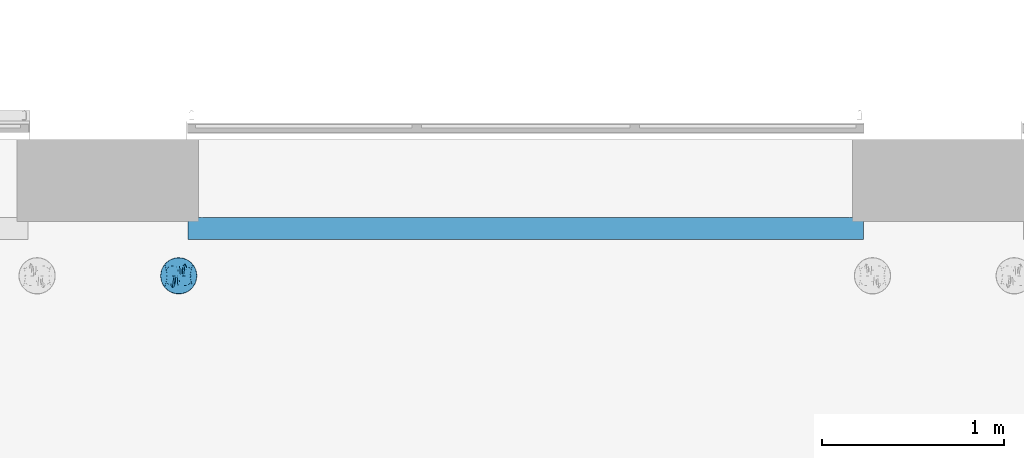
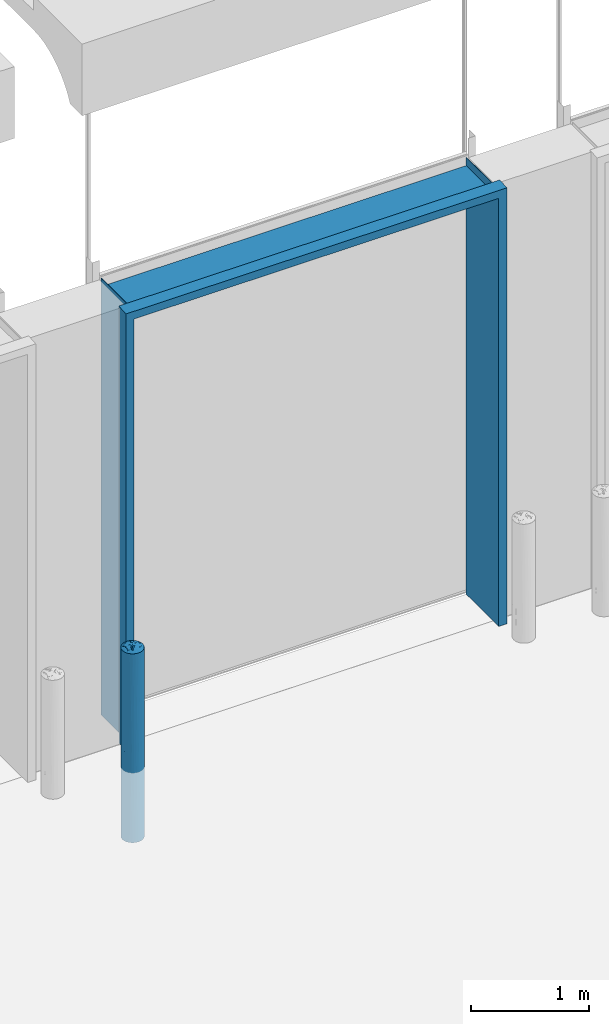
# One storey, part 42 of 77: 2 discrete accessories.
"""IFC2X3 building model written with IfcOpenShell, lengths in millimetres."""

from ifc_helpers import new_model, entity, si_unit, converted_unit, derived_unit, direction, frame, origin, place, context, subcontext, project, spatial, faceted_brep, source, transform, mapped, material, type_object, type_shapes, element, save


model = new_model("IFC2X3")

# Units and contexts
model_context = context("Model", 3, precision=0.01, world=origin(), true_north=direction((6.12303176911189e-17, 1.0)))
body_context = subcontext(model_context, "Body", "Model", "MODEL_VIEW")
ifc_project = project(units=[si_unit("LENGTHUNIT", "METRE", prefix="MILLI"), si_unit("AREAUNIT", "SQUARE_METRE"), si_unit("VOLUMEUNIT", "CUBIC_METRE"), converted_unit("PLANEANGLEUNIT", "DEGREE", entity("IfcRatioMeasure", 0.0174532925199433), si_unit("PLANEANGLEUNIT", "RADIAN"), dimensions=[0, 0, 0, 0, 0, 0, 0]), si_unit("MASSUNIT", "GRAM", prefix="KILO"), derived_unit("MASSDENSITYUNIT", [(si_unit("MASSUNIT", "GRAM", prefix="KILO"), 1), (si_unit("LENGTHUNIT", "METRE"), -3)]), si_unit("TIMEUNIT", "SECOND"), si_unit("FREQUENCYUNIT", "HERTZ"), si_unit("THERMODYNAMICTEMPERATUREUNIT", "DEGREE_CELSIUS"), derived_unit("THERMALTRANSMITTANCEUNIT", [(si_unit("MASSUNIT", "GRAM", prefix="KILO"), 1), (si_unit("THERMODYNAMICTEMPERATUREUNIT", "KELVIN"), -1), (si_unit("TIMEUNIT", "SECOND"), -3)]), derived_unit("VOLUMETRICFLOWRATEUNIT", [(si_unit("LENGTHUNIT", "METRE"), 3), (si_unit("TIMEUNIT", "SECOND"), -1)]), si_unit("ELECTRICCURRENTUNIT", "AMPERE"), si_unit("ELECTRICVOLTAGEUNIT", "VOLT"), si_unit("POWERUNIT", "WATT"), si_unit("FORCEUNIT", "NEWTON", prefix="KILO"), si_unit("ILLUMINANCEUNIT", "LUX"), si_unit("LUMINOUSFLUXUNIT", "LUMEN"), si_unit("LUMINOUSINTENSITYUNIT", "CANDELA"), derived_unit("USERDEFINED", [(si_unit("MASSUNIT", "GRAM", prefix="KILO"), -1), (si_unit("LENGTHUNIT", "METRE"), -2), (si_unit("TIMEUNIT", "SECOND"), 3), (si_unit("LUMINOUSFLUXUNIT", "LUMEN"), 1)]), derived_unit("LINEARVELOCITYUNIT", [(si_unit("LENGTHUNIT", "METRE"), 1), (si_unit("TIMEUNIT", "SECOND"), -1)]), si_unit("PRESSUREUNIT", "PASCAL"), derived_unit("USERDEFINED", [(si_unit("LENGTHUNIT", "METRE"), -2), (si_unit("MASSUNIT", "GRAM", prefix="KILO"), 1), (si_unit("TIMEUNIT", "SECOND"), -2)])], contexts=[model_context])

# Site, building, storey
site_placement = place(None, origin())
site = spatial("IfcSite", under=ifc_project, at=site_placement, Name="Default", CompositionType="ELEMENT")
building_placement = place(site_placement, origin())
building = spatial("IfcBuilding", under=site, at=building_placement, CompositionType="ELEMENT")
storey_placement = place(building_placement, origin())
storey = spatial("IfcBuildingStorey", under=building, at=storey_placement, Name="1. KORRUS", CompositionType="ELEMENT", Elevation=0.0)

# Discrete accessories
ifc_material = material(Name="Default New Material-must-varv")
discrete_accessory_type_1 = type_object("IfcDiscreteAccessoryType", Name="ukse-pollar", material=ifc_material)
shared_shape_1 = source(origin(), body_context, "Body", "Brep", [
    faceted_brep([(83.7498316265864, 0.0, 1211.3118064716), (91.8749158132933, 0.0, 1205.6559032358), (100.0, 0.0, 1200.0), (97.6882221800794, 13.1107435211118, 1200.0), (95.8287421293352, 23.6563789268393, 1200.0), (93.969262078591, 34.2020143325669, 1200.0), (76.9390417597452, 0.0, 1216.05282423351), (63.3022221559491, 75.4406506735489, 1200.0), (62.8416939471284, 39.8030161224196, 1218.4526620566), (69.2436158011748, 37.0764107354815, 1215.9880775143), (-97.6882221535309, 13.110743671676, 1200.0), (-100.0, 0.0, 1200.0), (-91.8749158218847, 0.0, 1205.65590322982), (-83.7498316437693, 0.0, 1211.31180645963), (-76.9390417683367, 0.0, 1216.05282422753), (-93.9692620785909, 34.2020143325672, 1200.0), (-95.8287421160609, 23.6563790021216, 1200.0), (61.6281008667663, 0.0, 1224.0406107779), (76.604444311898, 64.278760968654, 1200.0), (85.2868531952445, 49.2403876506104, 1200.0), (-3.54862814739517, 32.9400963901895, 1234.4920463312), (9.03191194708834, 0.0, 1237.09268012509), (4.40844307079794, 58.3778316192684, 1226.30016518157), (54.6170308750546, 47.6944043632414, 1219.50624940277), (44.627798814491, 0.0, 1230.53414834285), (25.5588463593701, 59.4119136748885, 1223.53680168), (33.6824088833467, 92.5416578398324, 1200.0), (17.3648177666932, 98.4807753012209, 1200.0), (-61.6281008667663, 0.0, 1224.0406107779), (-85.2868531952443, 49.2403876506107, 1200.0), (-70.128251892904, 0.0, 1220.79384199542), (36.1276477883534, 0.0, 1233.78091712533), (43.4209832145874, 50.3665618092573, 1222.6504135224), (70.128251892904, 0.0, 1220.79384199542), (-76.6044443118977, 64.2787609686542, 1200.0), (50.0, 86.6025403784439, 1200.0), (-50.0, 86.6025403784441, 1200.0), (-54.4185160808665, 48.7244133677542, 1219.21017541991), (-43.392270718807, 54.0995868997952, 1221.20165944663), (27.095735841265, 0.0, 1234.88483812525), (35.2622305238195, 66.2009236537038, 1218.09661192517), (-62.8416940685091, 39.8030246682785, 1218.45265938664), (-63.3022221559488, 75.4406506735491, 1200.0), (18.0638238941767, 0.0, 1235.98875912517), (18.4754636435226, 34.2574490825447, 1233.0588958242), (-69.2436179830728, 37.0764202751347, 1215.98807356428), (-53.1279498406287, 0.0, 1227.28737956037), (15.0400910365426, 63.9380091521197, 1223.05106581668), (0.0, 98.4807753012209, 1200.0), (-33.6824088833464, 92.5416578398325, 1200.0), (-31.0939161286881, 53.155099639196, 1224.97270928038), (-21.496736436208, 71.3818883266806, 1218.36002279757), (-27.095735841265, 0.0, 1234.88483812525), (-36.1276477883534, 0.0, 1233.78091712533), (-13.9644320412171, 48.8776365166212, 1229.32055829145), (53.1279498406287, 0.0, 1227.28737956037), (-44.627798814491, 0.0, 1230.53414834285), (-18.0638238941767, 0.0, 1235.98875912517), (-9.03191194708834, 0.0, 1237.09268012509), (-9.80597558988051, 78.5292492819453, 1215.62108797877), (-17.3648177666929, 98.480775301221, 1200.0), (0.0, 0.0, 1238.19660112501), (-97.6882221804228, -13.1107435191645, 1200.0), (-95.8287421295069, -23.6563789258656, 1200.0), (-93.9692620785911, -34.2020143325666, 1200.0), (-63.3022221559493, -75.4406506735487, 1200.0), (-62.8416938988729, -39.8030161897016, 1218.45266205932), (-69.2436157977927, -37.076410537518, 1215.98807757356), (97.6882221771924, -13.110743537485, 1200.0), (93.9692620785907, -34.2020143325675, 1200.0), (95.8287421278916, -23.6563789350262, 1200.0), (-76.6044443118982, -64.2787609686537, 1200.0), (-85.2868531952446, -49.2403876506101, 1200.0), (3.54862829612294, -32.9400954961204, 1234.4920465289), (-4.40844201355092, -58.3778322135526, 1226.30016496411), (-54.6170308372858, -47.6944042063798, 1219.50624947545), (-25.5588462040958, -59.4119134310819, 1223.53680181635), (-33.682408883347, -92.5416578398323, 1200.0), (-17.3648177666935, -98.4807753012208, 1200.0), (-43.4209830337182, -50.3665619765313, 1222.65041351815), (-50.0, -86.6025403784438, 1200.0), (62.8416939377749, -39.803016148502, 1218.45266205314), (54.4185175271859, -48.7244091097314, 1219.21017640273), (63.3022221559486, -75.4406506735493, 1200.0), (85.2868531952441, -49.240387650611, 1200.0), (76.6044443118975, -64.2787609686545, 1200.0), (50.0, -86.6025403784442, 1200.0), (43.3922717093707, -54.0995849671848, 1221.20165990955), (-35.2622303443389, -66.2009242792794, 1218.09661165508), (-18.475463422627, -34.2574489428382, 1233.05889588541), (69.2436157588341, -37.0764105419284, 1215.98807759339), (-15.0400904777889, -63.9380089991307, 1223.05106595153), (0.0, -98.4807753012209, 1200.0), (33.6824088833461, -92.5416578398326, 1200.0), (31.0939160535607, -53.155100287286, 1224.97270904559), (21.4967358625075, -71.3818881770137, 1218.3600229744), (13.9644325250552, -48.8776338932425, 1229.32055915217), (9.80597229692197, -78.5292495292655, 1215.62108807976), (17.3648177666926, -98.480775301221, 1200.0), (0.0, 0.0, 1200.0)], [[[0, 1, 2, 3, 4, 5, 6]], [[7, 8, 9]], [[10, 11, 12, 13, 14, 15, 16]], [[9, 17, 18]], [[17, 19, 18]], [[20, 21, 22]], [[8, 23, 24]], [[25, 26, 27]], [[28, 29, 30]], [[19, 6, 5]], [[31, 23, 32]], [[14, 30, 29]], [[6, 19, 33]], [[29, 28, 34]], [[32, 23, 35]], [[36, 37, 38]], [[39, 32, 40]], [[29, 15, 14]], [[41, 37, 42]], [[43, 44, 21]], [[33, 19, 17]], [[45, 28, 46]], [[42, 37, 36]], [[45, 46, 41]], [[25, 43, 39]], [[47, 22, 44]], [[26, 40, 35]], [[47, 27, 48]], [[49, 50, 51]], [[52, 38, 53]], [[22, 54, 20]], [[39, 31, 32]], [[25, 40, 26]], [[24, 55, 8]], [[35, 23, 7]], [[23, 31, 24]], [[9, 8, 55]], [[23, 8, 7]], [[37, 41, 56]], [[51, 50, 54]], [[38, 52, 50]], [[57, 50, 52]], [[50, 57, 54]], [[38, 49, 36]], [[54, 57, 58]], [[48, 59, 22]], [[38, 37, 53]], [[49, 38, 50]], [[56, 41, 46]], [[56, 53, 37]], [[45, 42, 34]], [[17, 9, 55]], [[7, 9, 18]], [[42, 45, 41]], [[28, 45, 34]], [[47, 44, 25]], [[25, 44, 43]], [[22, 21, 44]], [[25, 27, 47]], [[51, 59, 60]], [[47, 48, 22]], [[39, 40, 25]], [[35, 40, 32]], [[58, 20, 54]], [[20, 58, 61]], [[21, 20, 61]], [[59, 51, 54]], [[49, 51, 60]], [[22, 59, 54]], [[48, 60, 59]], [[13, 12, 11, 62, 63, 64, 14]], [[65, 66, 67]], [[68, 2, 1, 0, 6, 69, 70]], [[67, 28, 71]], [[28, 72, 71]], [[73, 58, 74]], [[66, 75, 56]], [[76, 77, 78]], [[79, 75, 80]], [[53, 75, 79]], [[81, 82, 83]], [[6, 84, 69]], [[84, 17, 85]], [[86, 82, 87]], [[17, 84, 33]], [[52, 79, 88]], [[33, 84, 6]], [[72, 14, 64]], [[57, 89, 58]], [[14, 72, 30]], [[30, 72, 28]], [[90, 17, 55]], [[83, 82, 86]], [[90, 55, 81]], [[76, 57, 52]], [[91, 74, 89]], [[77, 88, 80]], [[91, 78, 92]], [[93, 94, 95]], [[39, 87, 31]], [[74, 96, 73]], [[52, 53, 79]], [[76, 88, 77]], [[56, 46, 66]], [[80, 75, 65]], [[75, 53, 56]], [[67, 66, 46]], [[75, 66, 65]], [[82, 81, 24]], [[95, 94, 96]], [[87, 39, 94]], [[43, 94, 39]], [[94, 43, 96]], [[87, 93, 86]], [[96, 43, 21]], [[92, 97, 74]], [[87, 82, 31]], [[93, 87, 94]], [[24, 81, 55]], [[24, 31, 82]], [[90, 83, 85]], [[28, 67, 46]], [[65, 67, 71]], [[83, 90, 81]], [[17, 90, 85]], [[91, 89, 76]], [[76, 89, 57]], [[74, 58, 89]], [[76, 78, 91]], [[95, 97, 98]], [[91, 92, 74]], [[52, 88, 76]], [[80, 88, 79]], [[21, 73, 96]], [[73, 21, 61]], [[58, 73, 61]], [[97, 95, 96]], [[93, 95, 98]], [[74, 97, 96]], [[92, 98, 97]], [[99, 15, 29]], [[99, 29, 34]], [[99, 34, 42]], [[99, 42, 36]], [[99, 36, 49]], [[99, 49, 60]], [[99, 60, 48]], [[99, 16, 15]], [[99, 10, 16]], [[99, 11, 10]], [[99, 48, 27]], [[99, 27, 26]], [[99, 26, 35]], [[99, 35, 7]], [[99, 7, 18]], [[99, 18, 19]], [[99, 19, 5]], [[99, 5, 4]], [[99, 4, 3]], [[99, 3, 2]], [[99, 2, 68]], [[99, 62, 11]], [[99, 63, 62]], [[99, 64, 63]], [[99, 72, 64]], [[99, 71, 72]], [[99, 65, 71]], [[99, 80, 65]], [[99, 77, 80]], [[99, 78, 77]], [[99, 68, 70]], [[99, 70, 69]], [[99, 69, 84]], [[99, 84, 85]], [[99, 85, 83]], [[99, 83, 86]], [[99, 86, 93]], [[99, 93, 98]], [[99, 98, 92]], [[99, 92, 78]]]),
    faceted_brep([(25.8819045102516, -96.592582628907, 1200.0), (50.0, -86.6025403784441, 1200.0), (70.7106781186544, -70.7106781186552, 1200.0), (86.6025403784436, -50.0, 1200.0), (96.5925826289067, -25.8819045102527, 1200.0), (100.0, 0.0, 1200.0), (96.5925826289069, 25.8819045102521, 1200.0), (86.6025403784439, 50.0, 1200.0), (70.7106781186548, 70.7106781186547, 1200.0), (50.0, 86.6025403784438, 1200.0), (25.8819045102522, 96.5925826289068, 1200.0), (0.0, 100.0, 1200.0), (-25.8819045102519, 96.5925826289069, 1200.0), (-50.0, 86.602540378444, 1200.0), (-70.7106781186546, 70.7106781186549, 1200.0), (-86.6025403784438, 50.0, 1200.0), (-96.5925826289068, 25.8819045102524, 1200.0), (-100.0, 0.0, 1200.0), (-96.5925826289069, -25.8819045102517, 1200.0), (-86.6025403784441, -50.0, 1200.0), (-70.710678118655, -70.7106781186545, 1200.0), (-50.0, -86.6025403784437, 1200.0), (-25.8819045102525, -96.5925826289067, 1200.0), (0.0, -100.0, 1200.0), (0.0, 100.0, -750.0), (25.8819045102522, 96.5925826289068, -750.0), (50.0, 86.6025403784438, -750.0), (70.7106781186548, 70.7106781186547, -750.0), (86.6025403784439, 50.0, -750.0), (96.5925826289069, 25.8819045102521, -750.0), (100.0, 0.0, -750.0), (96.5925826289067, -25.8819045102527, -750.0), (86.6025403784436, -50.0, -750.0), (70.7106781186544, -70.7106781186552, -750.0), (50.0, -86.6025403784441, -750.0), (25.8819045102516, -96.592582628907, -750.0), (0.0, -100.0, -750.0), (-25.8819045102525, -96.5925826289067, -750.0), (-50.0, -86.6025403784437, -750.0), (-70.710678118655, -70.7106781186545, -750.0), (-86.6025403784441, -50.0, -750.0), (-96.5925826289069, -25.8819045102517, -750.0), (-100.0, 0.0, -750.0), (-96.5925826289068, 25.8819045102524, -750.0), (-86.6025403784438, 50.0, -750.0), (-70.7106781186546, 70.7106781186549, -750.0), (-50.0, 86.602540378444, -750.0), (-25.8819045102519, 96.5925826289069, -750.0), (-79.3353340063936, -60.8761429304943, 225.0), (-95.1291375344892, -30.8293235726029, 225.0), (-92.387953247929, -38.2683432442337, -285.980854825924), (-38.2683432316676, -92.3879532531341, -299.59510263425), (-60.8761428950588, -79.3353340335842, -151.214692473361), (55.4391010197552, -83.225633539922, 225.0), (79.335334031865, -60.8761428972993, 225.0), (60.8761429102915, -79.3353340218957, 601.214692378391), (-79.3353340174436, -60.8761429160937, 749.595102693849), (-13.0526192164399, -99.1444861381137, -151.214692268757), (13.0526192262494, -99.1444861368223, -269.40187286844), (4.65337325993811, -99.8916719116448, 225.0), (-19.6480455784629, -98.0507741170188, 225.0), (-38.2683432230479, -92.3879532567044, 749.595102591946), (-38.2683432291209, -92.387953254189, 225.0), (-79.3353340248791, -60.8761429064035, -299.595102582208), (-60.876142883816, -79.3353340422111, 601.214692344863), (79.335334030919, -60.8761428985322, -299.595102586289), (60.8761429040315, -79.3353340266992, -151.214692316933), (-98.5078583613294, -17.2105154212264, -334.254320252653), (-100.0, 0.0, 501.660929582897), (-100.0, 0.0, -51.6552314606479), (-92.3879532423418, -38.2683432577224, 735.980854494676), (-98.507858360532, -17.2105154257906, 784.254320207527), (100.0, 0.0, 501.659108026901), (95.1291375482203, -30.8293235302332, 225.0), (100.0, 0.0, -51.6591080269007), (-55.4391010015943, -83.2256335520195, 225.0), (38.2683432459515, -92.3879532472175, 749.595102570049), (-13.0526192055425, -99.1444861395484, 601.214692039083), (38.2683432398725, -92.3879532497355, -299.595102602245), (92.3879532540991, -38.2683432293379, 735.980854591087), (92.3879532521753, -38.2683432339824, -285.980854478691), (79.335334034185, -60.8761428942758, 749.595102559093), (98.5078583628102, -17.2105154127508, 784.254320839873), (13.0526192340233, -99.1444861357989, 719.401872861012), (98.5078583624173, -17.2105154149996, -334.254320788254), (38.268343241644, -92.3879532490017, 225.0), (98.5078583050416, 17.210515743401, -334.254323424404), (-79.3353340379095, 60.8761428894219, -299.595102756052), (-60.876142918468, 79.3353340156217, -151.214692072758), (79.3353338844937, 60.8761430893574, -299.595101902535), (13.0526191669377, 99.1444861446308, -151.214692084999), (38.2683431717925, 92.3879532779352, -299.595102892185), (19.6480455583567, 98.0507741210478, 225.0), (38.2683431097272, 92.3879533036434, 749.595103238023), (38.2683431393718, 92.3879532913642, 225.0), (-13.0526193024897, 99.1444861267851, 719.401872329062), (66.0410934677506, 75.0904386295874, 225.000002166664), (60.8761427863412, 79.3353341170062, -151.214692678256), (-13.0526192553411, 99.1444861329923, -269.401871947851), (-4.6533732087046, 99.8916719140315, 224.999998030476), (95.1291373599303, 30.829324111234, 225.000013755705), (-92.3879532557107, 38.2683432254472, -285.980854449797), (-98.5078583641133, 17.210515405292, -334.254320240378), (-95.1291375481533, 30.8293235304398, 225.0), (79.3353338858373, 60.8761430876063, 749.595105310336), (92.3879530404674, 38.2683437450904, -285.980851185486), (79.3353338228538, 60.876143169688, 225.000002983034), (-38.2683432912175, 92.3879532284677, 749.595102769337), (92.38795316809, 38.2683434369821, 735.980862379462), (60.8761427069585, 79.3353341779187, 601.214694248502), (13.0526190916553, 99.144486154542, 601.214690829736), (-55.4391010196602, 83.2256335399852, 225.0), (-79.3353340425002, 60.8761428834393, 225.0), (-60.8761429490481, 79.3353339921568, 601.214692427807), (-38.2683432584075, 92.387953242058, -299.595102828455), (-92.3879532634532, 38.268343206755, 735.980854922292), (-79.3353340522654, 60.8761428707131, 749.59510268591), (-98.5078583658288, 17.2105153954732, 784.254320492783), (98.5078583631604, 17.2105154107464, 784.25432452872), (-38.2683432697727, 92.3879532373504, 225.0)], [[[0, 1, 2, 3, 4, 5, 6, 7, 8, 9, 10, 11, 12, 13, 14, 15, 16, 17, 18, 19, 20, 21, 22, 23]], [[24, 25, 26, 27, 28, 29, 30, 31, 32, 33, 34, 35, 36, 37, 38, 39, 40, 41, 42, 43, 44, 45, 46, 47]], [[48, 49, 50]], [[51, 52, 38]], [[53, 54, 55]], [[56, 20, 19]], [[38, 37, 51]], [[57, 58, 59]], [[51, 60, 61, 62]], [[63, 52, 48]], [[64, 56, 48]], [[65, 66, 33]], [[57, 60, 51]], [[41, 40, 50]], [[41, 67, 42]], [[68, 69, 49]], [[40, 39, 63]], [[66, 34, 33]], [[49, 70, 71]], [[72, 73, 74]], [[57, 37, 36]], [[75, 61, 64]], [[1, 0, 76]], [[20, 64, 21]], [[22, 21, 61]], [[61, 77, 22]], [[75, 51, 62, 61]], [[35, 34, 78]], [[58, 36, 35]], [[75, 48, 52]], [[33, 32, 65]], [[54, 73, 79]], [[65, 80, 54]], [[79, 81, 54]], [[79, 82, 4]], [[50, 67, 41]], [[56, 64, 20]], [[4, 82, 5]], [[23, 22, 77]], [[77, 83, 23]], [[31, 80, 32]], [[39, 38, 52]], [[17, 68, 71]], [[42, 67, 69]], [[54, 81, 55]], [[66, 65, 54]], [[30, 74, 84]], [[5, 82, 72]], [[66, 53, 78]], [[55, 2, 1]], [[80, 84, 73]], [[70, 19, 18]], [[3, 2, 81]], [[56, 70, 48]], [[50, 63, 48]], [[36, 58, 57]], [[0, 23, 83]], [[79, 4, 3]], [[76, 55, 1]], [[53, 76, 85, 78]], [[78, 58, 35]], [[85, 83, 59]], [[77, 60, 59]], [[76, 83, 85]], [[58, 78, 85]], [[50, 40, 63]], [[67, 49, 69]], [[71, 70, 18]], [[48, 70, 49]], [[79, 3, 81]], [[82, 73, 72]], [[84, 80, 31]], [[54, 80, 73]], [[57, 51, 37]], [[64, 61, 21]], [[66, 78, 34]], [[83, 76, 0]], [[70, 56, 19]], [[52, 63, 39]], [[80, 65, 32]], [[55, 81, 2]], [[85, 59, 58]], [[83, 77, 59]], [[49, 67, 50]], [[17, 71, 18]], [[49, 71, 68]], [[73, 82, 79]], [[30, 84, 31]], [[73, 84, 74]], [[59, 60, 57]], [[61, 60, 77]], [[48, 75, 64]], [[51, 75, 52]], [[54, 53, 66]], [[76, 53, 55]], [[86, 30, 29]], [[87, 88, 45]], [[28, 27, 89]], [[90, 25, 24]], [[26, 25, 91]], [[91, 92, 93, 94]], [[12, 11, 95]], [[96, 89, 97]], [[90, 98, 99]], [[91, 90, 92]], [[74, 100, 72]], [[101, 102, 103]], [[88, 46, 45]], [[97, 27, 26]], [[8, 7, 104]], [[100, 105, 106]], [[13, 12, 107]], [[7, 6, 108]], [[109, 94, 93]], [[97, 91, 94]], [[10, 9, 93]], [[109, 9, 8]], [[28, 105, 29]], [[93, 110, 10]], [[111, 112, 113]], [[47, 46, 114]], [[96, 104, 106, 89]], [[104, 109, 8]], [[45, 44, 87]], [[112, 103, 115]], [[91, 97, 26]], [[87, 101, 112]], [[115, 116, 112]], [[105, 86, 29]], [[96, 94, 109]], [[16, 117, 17]], [[11, 10, 110]], [[110, 95, 11]], [[15, 14, 116]], [[115, 16, 15]], [[5, 72, 118]], [[112, 116, 113]], [[88, 87, 112]], [[104, 108, 106]], [[88, 111, 114]], [[113, 14, 13]], [[42, 69, 102]], [[17, 117, 68]], [[43, 101, 44]], [[108, 118, 100]], [[115, 117, 16]], [[24, 98, 90]], [[98, 24, 47]], [[68, 103, 69]], [[107, 113, 13]], [[111, 107, 119, 114]], [[114, 98, 47]], [[119, 95, 99]], [[110, 92, 99]], [[107, 95, 119]], [[98, 114, 119]], [[105, 28, 89]], [[86, 100, 74]], [[118, 108, 6]], [[106, 108, 100]], [[115, 15, 116]], [[117, 103, 68]], [[102, 101, 43]], [[112, 101, 103]], [[97, 89, 27]], [[105, 89, 106]], [[108, 104, 7]], [[90, 91, 25]], [[109, 93, 9]], [[88, 114, 46]], [[95, 107, 12]], [[101, 87, 44]], [[113, 116, 14]], [[119, 99, 98]], [[95, 110, 99]], [[100, 86, 105]], [[30, 86, 74]], [[5, 118, 6]], [[100, 118, 72]], [[103, 117, 115]], [[42, 102, 43]], [[103, 102, 69]], [[94, 96, 97]], [[104, 96, 109]], [[99, 92, 90]], [[93, 92, 110]], [[112, 111, 88]], [[107, 111, 113]]]),
])
type_shapes(discrete_accessory_type_1, [shared_shape_1])
discrete_accessory_1_placement = place(storey_placement, frame((15890.0321791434, -750.0, 0.0)))
element("IfcDiscreteAccessory", 1, at=discrete_accessory_1_placement, inside=storey, type_object=discrete_accessory_type_1, material=ifc_material, Name="ukse-pollar:ukse-pollar", ObjectType="ukse-pollar", context=body_context, shape_type="MappedRepresentation", body=[
    mapped(shared_shape_1, transform((0.0, 0.0, 0.0), scale=1.0)),
])
discrete_accessory_type_2 = type_object("IfcDiscreteAccessoryType", Name="akna-ylaplekid3600", material=ifc_material)
shared_shape_2 = source(origin(), body_context, "Body", "Brep", [
    faceted_brep([(-1780.0, 280.0, -440.0), (-1780.0, -270.0, -440.0), (-1784.0, -270.0, -440.0), (-1784.0, 276.0, -440.0), (-1856.0, 276.0, -440.0), (-1856.0, 160.0, -440.0), (-1860.0, 160.0, -440.0), (-1860.0, 280.0, -440.0), (-1780.0, -270.0, 4070.0), (-1780.0, -270.0, 3984.0), (-1780.0, 276.0, 3984.0), (-1780.0, 276.0, 4056.31946847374), (-1780.0, 160.0, 4065.9861351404), (-1780.0, 160.0, 4070.0), (-1784.0, -270.0, 4070.0), (-1780.0, -270.0, 3980.0), (1780.0, -270.0, 3980.0), (1780.0, -270.0, -440.0), (1784.0, -270.0, -440.0), (1784.0, -270.0, 4070.0), (1780.0, -270.0, 4070.0), (1780.0, -270.0, 3984.0), (-1784.0, 160.0, 4070.0), (-1784.0, 160.0, 4065.9861351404), (-1784.0, 276.0, 4056.31946847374), (-1856.0, 276.0, 4056.31946847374), (-1856.0, 160.0, 4065.9861351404), (-1860.0, 160.0, 4070.0), (-1860.0, 280.0, 4060.0), (1860.0, 280.0, 4060.0), (1860.0, 280.0, -440.0), (1780.0, 280.0, -440.0), (1780.0, 280.0, 3980.0), (-1780.0, 280.0, 3980.0), (1780.0, 160.0, 4070.0), (1784.0, 160.0, 4070.0), (1860.0, 160.0, 4070.0), (1780.0, 276.0, 3984.0), (1780.0, 276.0, 4056.31946847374), (1860.0, 160.0, -440.0), (1856.0, 160.0, -440.0), (1856.0, 276.0, -440.0), (1784.0, 276.0, -440.0), (1780.0, 160.0, 4065.9861351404), (1784.0, 276.0, 4056.31946847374), (1784.0, 160.0, 4065.9861351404), (1856.0, 276.0, 4056.31946847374), (1856.0, 160.0, 4065.9861351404)], [[[0, 1, 2, 3, 4, 5, 6, 7]], [[8, 9, 10, 11, 12, 13]], [[14, 2, 1, 15, 16, 17, 18, 19, 20, 21, 9, 8]], [[2, 14, 22, 23, 24, 3]], [[3, 24, 25, 4]], [[4, 25, 26, 5]], [[6, 27, 28, 7]], [[7, 28, 29, 30, 31, 32, 33, 0]], [[13, 34, 35, 36, 29, 28, 27, 22]], [[37, 38, 11, 10]], [[10, 9, 21, 37]], [[32, 16, 15, 33]], [[31, 30, 39, 40, 41, 42, 18, 17]], [[34, 43, 38, 37, 21, 20]], [[42, 44, 45, 35, 19, 18]], [[41, 46, 44, 42]], [[40, 47, 46, 41]], [[30, 29, 36, 39]], [[26, 25, 24, 23]], [[8, 13, 22, 14]], [[39, 36, 35, 45, 47, 40]], [[19, 35, 34, 20]], [[13, 12, 43, 34]], [[5, 26, 23, 22, 27, 6]], [[12, 11, 38, 43]], [[45, 44, 46, 47]], [[17, 16, 32, 31]], [[0, 33, 15, 1]]]),
])
type_shapes(discrete_accessory_type_2, [shared_shape_2])
discrete_accessory_2_placement = place(storey_placement, frame((17800.0241844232, -270.0, 440.0), z_axis=(0.0, 0.0, 1.0), x_axis=(-1.0, 0.0, 0.0)))
element("IfcDiscreteAccessory", 2, at=discrete_accessory_2_placement, inside=storey, type_object=discrete_accessory_type_2, material=ifc_material, Name="akna-ylaplekid_5400-A:akna-ylaplekid3600", ObjectType="akna-ylaplekid3600", context=body_context, shape_type="MappedRepresentation", body=[
    mapped(shared_shape_2, transform((0.0, 0.0, 0.0), scale=1.0)),
])

save(model, "model.ifc")
